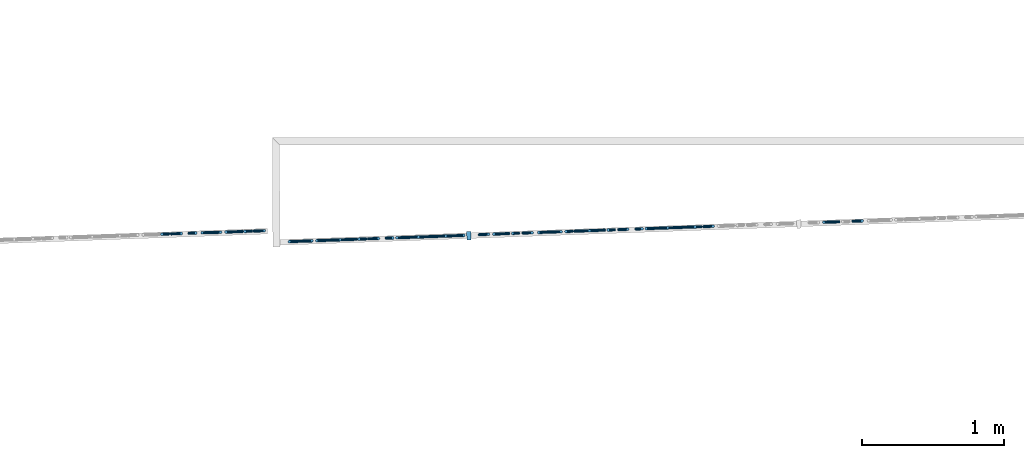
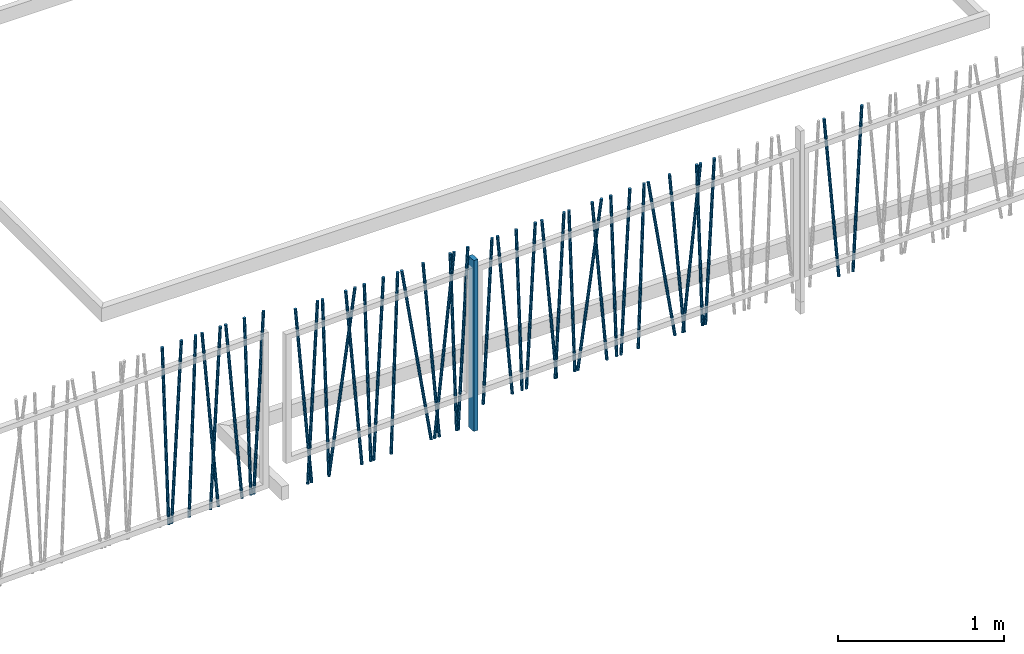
# One storey, part 11 of 171: 41 columns.
"""IFC2X3 building model written with IfcOpenShell, lengths in millimetres."""

from ifc_helpers import new_model, entity, si_unit, converted_unit, derived_unit, money_unit, direction, frame, origin_with_axes, origin_2d_with_axis, place, context, subcontext, project, spatial, rectangle, circle, extrude, clip, halfspace, material, type_object, element, save


model = new_model("IFC2X3")

# Units and contexts
model_context = context("Model", 3, precision=0.01, world=origin_with_axes(), true_north=direction((0.0, 1.0)))
body_context = subcontext(model_context, "Body", "Model", "MODEL_VIEW")
ifc_project = project(units=[si_unit("LENGTHUNIT", "METRE", prefix="MILLI"), si_unit("AREAUNIT", "SQUARE_METRE"), si_unit("VOLUMEUNIT", "CUBIC_METRE"), converted_unit("PLANEANGLEUNIT", "DEGREE", entity("IfcPlaneAngleMeasure", 0.0174532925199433), si_unit("PLANEANGLEUNIT", "RADIAN"), dimensions=[0, 0, 0, 0, 0, 0, 0]), money_unit("USD"), converted_unit("TIMEUNIT", "Year", entity("IfcTimeMeasure", 31557600.0), si_unit("TIMEUNIT", "SECOND"), dimensions=[0, 0, 1, 0, 0, 0, 0]), si_unit("MASSUNIT", "GRAM", prefix="KILO"), si_unit("THERMODYNAMICTEMPERATUREUNIT", "DEGREE_CELSIUS"), si_unit("LUMINOUSINTENSITYUNIT", "LUMEN"), si_unit("ENERGYUNIT", "JOULE", prefix="MEGA"), derived_unit("THERMALCONDUCTANCEUNIT", [(si_unit("POWERUNIT", "WATT"), 1), (si_unit("LENGTHUNIT", "METRE"), -1), (si_unit("THERMODYNAMICTEMPERATUREUNIT", "KELVIN"), -1)]), derived_unit("SPECIFICHEATCAPACITYUNIT", [(si_unit("ENERGYUNIT", "JOULE"), 1), (si_unit("MASSUNIT", "GRAM", prefix="KILO"), -1), (si_unit("THERMODYNAMICTEMPERATUREUNIT", "KELVIN"), -1)]), derived_unit("MASSDENSITYUNIT", [(si_unit("MASSUNIT", "GRAM", prefix="KILO"), 1), (si_unit("VOLUMEUNIT", "CUBIC_METRE"), -1)])], contexts=[model_context])

# Site, building, storey
site_placement = place(None, origin_with_axes())
site = spatial("IfcSite", under=ifc_project, at=site_placement, Name="Site", CompositionType="ELEMENT")
building_placement = place(site_placement, origin_with_axes())
building = spatial("IfcBuilding", under=site, at=building_placement, Name="Bâtiment", CompositionType="ELEMENT")
storey_placement = place(building_placement, frame((0.0, 0.0, 3000.0), z_axis=(0.0, 0.0, 1.0), x_axis=(1.0, 0.0, 0.0)))
storey = spatial("IfcBuildingStorey", under=building, at=storey_placement, Name="rdc", CompositionType="ELEMENT", Elevation=3000.0)

# Columns
ifc_material = material(Name="Empty Fill 2959611567")
column_type_1 = type_object("IfcColumnType", Name="Empty Fill 2959611567 D20", PredefinedType="NOTDEFINED")
column_1_placement = place(storey_placement, frame((2250794.029648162, -666940.8238283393, -1950.0), z_axis=(0.0, 0.0, 1.0), x_axis=(0.03567989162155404, -0.9993632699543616, 0.0)))
element("IfcColumn", 1, at=column_1_placement, inside=storey, type_object=column_type_1, material=ifc_material, Name="Pilier-019", context=body_context, shape_type="Clipping", body=[
    clip(clip(extrude(circle(Radius=10.0, at=origin_2d_with_axis()), frame((0.0, -0.05485622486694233, -1.046719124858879), z_axis=(0.0, -0.05233595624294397, -0.9986295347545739), x_axis=(-1.0, 0.0, 0.0)), (0.0, 0.0, -1.0), 1203.743126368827), halfspace(frame((0.0, 0.0, 0.0), z_axis=(0.0, 0.0, 1.0), x_axis=(0.0, -1.0, 0.0)), True)), halfspace(frame((0.0, 0.0, 1200.0), z_axis=(0.0, 0.0, -1.0), x_axis=(0.0, 1.0, 0.0)), True)),
])
column_2_placement = place(storey_placement, frame((2245995.297487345, -667029.642795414, -2071.2112281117), z_axis=(0.0, 0.0, 1.0), x_axis=(0.03567989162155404, -0.9993632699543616, 0.0)))
element("IfcColumn", 2, at=column_2_placement, inside=storey, type_object=column_type_1, material=ifc_material, Name="Pilier-019", context=body_context, shape_type="Clipping", body=[
    clip(clip(extrude(circle(Radius=10.0, at=origin_2d_with_axis()), frame((0.0, -0.05485622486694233, -1.046719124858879), z_axis=(0.0, -0.05233595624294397, -0.9986295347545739), x_axis=(-1.0, 0.0, 0.0)), (0.0, 0.0, -1.0), 1325.120698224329), halfspace(frame((0.0, 0.0, 0.0), z_axis=(0.0, 0.0, 1.0), x_axis=(0.0, -1.0, 0.0)), True)), halfspace(frame((0.0, 0.0, 1321.2112281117), z_axis=(0.0, 0.0, -1.0), x_axis=(0.0, 1.0, 0.0)), True)),
])
column_3_placement = place(storey_placement, frame((2245974.602719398, -667030.3816529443, -2071.2112281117), z_axis=(0.0, 0.0, 1.0), x_axis=(-0.03567989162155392, 0.9993632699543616, 0.0)))
element("IfcColumn", 3, at=column_3_placement, inside=storey, type_object=column_type_1, material=ifc_material, Name="Pilier-019", context=body_context, shape_type="Clipping", body=[
    clip(clip(extrude(circle(Radius=10.0, at=origin_2d_with_axis()), frame((0.0, -0.02437434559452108, -0.6979899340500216), z_axis=(0.0, 0.03489949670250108, 0.9993908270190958), x_axis=(1.0, 0.0, 0.0)), (0.0, 0.0, 1.0), 1323.413395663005), halfspace(frame((0.0, 0.0, 0.0), z_axis=(0.0, 0.0, 1.0), x_axis=(0.0, -1.0, 0.0)), True)), halfspace(frame((0.0, 0.0, 1321.2112281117), z_axis=(0.0, 0.0, -1.0), x_axis=(0.0, 1.0, 0.0)), True)),
])
column_4_placement = place(storey_placement, frame((2246119.670835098, -667025.2023404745, -2071.2112281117), z_axis=(0.0, 0.0, 1.0), x_axis=(0.03567989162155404, -0.9993632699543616, 0.0)))
element("IfcColumn", 4, at=column_4_placement, inside=storey, type_object=column_type_1, material=ifc_material, Name="Pilier-019", context=body_context, shape_type="Clipping", body=[
    clip(clip(extrude(circle(Radius=10.0, at=origin_2d_with_axis()), frame((0.0, -0.02437434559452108, -0.6979899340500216), z_axis=(0.0, -0.03489949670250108, -0.9993908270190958), x_axis=(-1.0, 0.0, 0.0)), (0.0, 0.0, -1.0), 1323.413395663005), halfspace(frame((0.0, 0.0, 0.0), z_axis=(0.0, 0.0, 1.0), x_axis=(0.0, -1.0, 0.0)), True)), halfspace(frame((0.0, 0.0, 1321.2112281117), z_axis=(0.0, 0.0, -1.0), x_axis=(0.0, 1.0, 0.0)), True)),
])
column_5_placement = place(storey_placement, frame((2250693.336302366, -666944.4188450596, -1950.0), z_axis=(0.0, 0.0, 1.0), x_axis=(-0.03567989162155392, 0.9993632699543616, 0.0)))
element("IfcColumn", 5, at=column_5_placement, inside=storey, type_object=column_type_1, material=ifc_material, Name="Pilier-019", context=body_context, shape_type="Clipping", body=[
    clip(clip(extrude(circle(Radius=10.0, at=origin_2d_with_axis()), frame((0.0, -0.152502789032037, -1.743114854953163), z_axis=(0.0, 0.08715574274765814, 0.9961946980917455), x_axis=(1.0, 0.0, 0.0)), (0.0, 0.0, 1.0), 1208.083351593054), halfspace(frame((0.0, 0.0, 0.0), z_axis=(0.0, 0.0, 1.0), x_axis=(0.0, -1.0, 0.0)), True)), halfspace(frame((0.0, 0.0, 1200.0), z_axis=(0.0, 0.0, -1.0), x_axis=(0.0, 1.0, 0.0)), True)),
])
column_6_placement = place(storey_placement, frame((2247507.402789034, -667060.1041606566, -2071.2112281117), z_axis=(0.0, 0.0, 1.0), x_axis=(0.03567989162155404, -0.9993632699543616, 0.0)))
element("IfcColumn", 6, at=column_6_placement, inside=storey, type_object=column_type_1, material=ifc_material, Name="Pilier-019", context=body_context, shape_type="Clipping", body=[
    clip(clip(extrude(circle(Radius=10.0, at=origin_2d_with_axis()), frame((0.0, -0.02437434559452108, -0.6979899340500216), z_axis=(0.0, -0.03489949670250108, -0.9993908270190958), x_axis=(-1.0, 0.0, 0.0)), (0.0, 0.0, -1.0), 1323.413395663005), halfspace(frame((0.0, 0.0, 0.0), z_axis=(0.0, 0.0, 1.0), x_axis=(0.0, -1.0, 0.0)), True)), halfspace(frame((0.0, 0.0, 1321.2112281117), z_axis=(0.0, 0.0, -1.0), x_axis=(0.0, 1.0, 0.0)), True)),
])
column_7_placement = place(storey_placement, frame((2247362.334673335, -667065.2834731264, -2071.2112281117), z_axis=(0.0, 0.0, 1.0), x_axis=(-0.03567989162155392, 0.9993632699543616, 0.0)))
element("IfcColumn", 7, at=column_7_placement, inside=storey, type_object=column_type_1, material=ifc_material, Name="Pilier-019", context=body_context, shape_type="Clipping", body=[
    clip(clip(extrude(circle(Radius=10.0, at=origin_2d_with_axis()), frame((0.0, -0.02437434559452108, -0.6979899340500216), z_axis=(0.0, 0.03489949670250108, 0.9993908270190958), x_axis=(1.0, 0.0, 0.0)), (0.0, 0.0, 1.0), 1323.413395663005), halfspace(frame((0.0, 0.0, 0.0), z_axis=(0.0, 0.0, 1.0), x_axis=(0.0, -1.0, 0.0)), True)), halfspace(frame((0.0, 0.0, 1321.2112281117), z_axis=(0.0, 0.0, -1.0), x_axis=(0.0, 1.0, 0.0)), True)),
])
column_8_placement = place(storey_placement, frame((2247383.029441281, -667064.5446155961, -2071.2112281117), z_axis=(0.0, 0.0, 1.0), x_axis=(0.03567989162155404, -0.9993632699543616, 0.0)))
element("IfcColumn", 8, at=column_8_placement, inside=storey, type_object=column_type_1, material=ifc_material, Name="Pilier-019", context=body_context, shape_type="Clipping", body=[
    clip(clip(extrude(circle(Radius=10.0, at=origin_2d_with_axis()), frame((0.0, -0.05485622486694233, -1.046719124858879), z_axis=(0.0, -0.05233595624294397, -0.9986295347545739), x_axis=(-1.0, 0.0, 0.0)), (0.0, 0.0, -1.0), 1325.120698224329), halfspace(frame((0.0, 0.0, 0.0), z_axis=(0.0, 0.0, 1.0), x_axis=(0.0, -1.0, 0.0)), True)), halfspace(frame((0.0, 0.0, 1321.2112281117), z_axis=(0.0, 0.0, -1.0), x_axis=(0.0, 1.0, 0.0)), True)),
])
column_9_placement = place(storey_placement, frame((2247064.785123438, -667075.906772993, -2071.2112281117), z_axis=(0.0, 0.0, 1.0), x_axis=(-0.03567989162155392, 0.9993632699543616, 0.0)))
element("IfcColumn", 9, at=column_9_placement, inside=storey, type_object=column_type_1, material=ifc_material, Name="Pilier-019", context=body_context, shape_type="Clipping", body=[
    clip(clip(extrude(circle(Radius=10.0, at=origin_2d_with_axis()), frame((0.0, -0.02437434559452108, -0.6979899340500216), z_axis=(0.0, 0.03489949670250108, 0.9993908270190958), x_axis=(1.0, 0.0, 0.0)), (0.0, 0.0, 1.0), 1323.413395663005), halfspace(frame((0.0, 0.0, 0.0), z_axis=(0.0, 0.0, 1.0), x_axis=(0.0, -1.0, 0.0)), True)), halfspace(frame((0.0, 0.0, 1321.2112281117), z_axis=(0.0, 0.0, -1.0), x_axis=(0.0, 1.0, 0.0)), True)),
])
column_10_placement = place(storey_placement, frame((2247849.608866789, -667047.8865055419, -2071.2112281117), z_axis=(0.0, 0.0, 1.0), x_axis=(-0.03567989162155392, 0.9993632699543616, 0.0)))
element("IfcColumn", 10, at=column_10_placement, inside=storey, type_object=column_type_1, material=ifc_material, Name="Pilier-019", context=body_context, shape_type="Clipping", body=[
    clip(clip(extrude(circle(Radius=10.0, at=origin_2d_with_axis()), frame((0.0, -0.152502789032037, -1.743114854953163), z_axis=(0.0, 0.08715574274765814, 0.9961946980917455), x_axis=(1.0, 0.0, 0.0)), (0.0, 0.0, 1.0), 1329.75758690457), halfspace(frame((0.0, 0.0, 0.0), z_axis=(0.0, 0.0, 1.0), x_axis=(0.0, -1.0, 0.0)), True)), halfspace(frame((0.0, 0.0, 1321.2112281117), z_axis=(0.0, 0.0, -1.0), x_axis=(0.0, 1.0, 0.0)), True)),
])
column_11_placement = place(storey_placement, frame((2247791.990437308, -667049.9436346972, -2071.2112281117), z_axis=(0.0, 0.0, 1.0), x_axis=(-0.03567989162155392, 0.9993632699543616, 0.0)))
element("IfcColumn", 11, at=column_11_placement, inside=storey, type_object=column_type_1, material=ifc_material, Name="Pilier-019", context=body_context, shape_type="Clipping", body=[
    clip(clip(extrude(circle(Radius=10.0, at=origin_2d_with_axis()), frame((0.0, -0.4955357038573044, -3.128689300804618), z_axis=(0.0, 0.1564344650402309, 0.9876883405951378), x_axis=(1.0, 0.0, 0.0)), (0.0, 0.0, 1.0), 1344.015669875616), halfspace(frame((0.0, 0.0, 0.0), z_axis=(0.0, 0.0, 1.0), x_axis=(0.0, -1.0, 0.0)), True)), halfspace(frame((0.0, 0.0, 1321.2112281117), z_axis=(0.0, 0.0, -1.0), x_axis=(0.0, 1.0, 0.0)), True)),
])
column_12_placement = place(storey_placement, frame((2246579.014159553, -667009.9082883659, -2071.2112281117), z_axis=(0.0, 0.0, 1.0), x_axis=(0.03567989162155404, -0.9993632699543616, 0.0)))
element("IfcColumn", 12, at=column_12_placement, inside=storey, type_object=column_type_1, material=ifc_material, Name="Pilier-019", context=body_context, shape_type="Clipping", body=[
    clip(clip(extrude(circle(Radius=10.0, at=origin_2d_with_axis()), frame((0.0, -0.05485622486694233, -1.046719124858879), z_axis=(0.0, -0.05233595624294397, -0.9986295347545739), x_axis=(-1.0, 0.0, 0.0)), (0.0, 0.0, -1.0), 1325.120698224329), halfspace(frame((0.0, 0.0, 0.0), z_axis=(0.0, 0.0, 1.0), x_axis=(0.0, -1.0, 0.0)), True)), halfspace(frame((0.0, 0.0, 1321.2112281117), z_axis=(0.0, 0.0, -1.0), x_axis=(0.0, 1.0, 0.0)), True)),
])
column_13_placement = place(storey_placement, frame((2247973.071350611, -667043.4785708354, -2071.2112281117), z_axis=(0.0, 0.0, 1.0), x_axis=(-0.03567989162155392, 0.9993632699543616, 0.0)))
element("IfcColumn", 13, at=column_13_placement, inside=storey, type_object=column_type_1, material=ifc_material, Name="Pilier-019", context=body_context, shape_type="Clipping", body=[
    clip(clip(extrude(circle(Radius=10.0, at=origin_2d_with_axis()), frame((0.0, -0.02437434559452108, -0.6979899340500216), z_axis=(0.0, 0.03489949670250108, 0.9993908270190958), x_axis=(1.0, 0.0, 0.0)), (0.0, 0.0, 1.0), 1323.413395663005), halfspace(frame((0.0, 0.0, 0.0), z_axis=(0.0, 0.0, 1.0), x_axis=(0.0, -1.0, 0.0)), True)), halfspace(frame((0.0, 0.0, 1321.2112281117), z_axis=(0.0, 0.0, -1.0), x_axis=(0.0, 1.0, 0.0)), True)),
])
for number, where, z_axis, x_axis, name in (
    (14, (2246941.322639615, -667080.3147076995, -2071.2112281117), (0.0, 0.0, 1.0), (-0.03567989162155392, 0.9993632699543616, 0.0), "Pilier-019"),
    (15, (2246326.968070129, -667017.8012851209, -2071.2112281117), (0.0, 0.0, 1.0), (-0.03567989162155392, 0.9993632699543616, 0.0), "Pilier-019"),
):
    element("IfcColumn", number, at=place(storey_placement, frame(where, z_axis=z_axis, x_axis=x_axis)), inside=storey, type_object=column_type_1, material=ifc_material, Name=name, context=body_context, shape_type="Clipping", body=[
        clip(clip(extrude(circle(Radius=10.0, at=origin_2d_with_axis()), frame((0.0, -0.152502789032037, -1.743114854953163), z_axis=(0.0, 0.08715574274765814, 0.9961946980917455), x_axis=(1.0, 0.0, 0.0)), (0.0, 0.0, 1.0), 1329.75758690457), halfspace(frame((0.0, 0.0, 0.0), z_axis=(0.0, 0.0, 1.0), x_axis=(0.0, -1.0, 0.0)), True)), halfspace(frame((0.0, 0.0, 1321.2112281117), z_axis=(0.0, 0.0, -1.0), x_axis=(0.0, 1.0, 0.0)), True)),
    ])
column_14_placement = place(storey_placement, frame((2246914.478082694, -667081.2731288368, -2071.2112281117), z_axis=(0.0, 0.0, 1.0), x_axis=(0.03567989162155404, -0.9993632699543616, 0.0)))
element("IfcColumn", 16, at=column_14_placement, inside=storey, type_object=column_type_1, material=ifc_material, Name="Pilier-019", context=body_context, shape_type="Clipping", body=[
    clip(clip(extrude(circle(Radius=10.0, at=origin_2d_with_axis()), frame((0.0, -0.05485622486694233, -1.046719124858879), z_axis=(0.0, -0.05233595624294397, -0.9986295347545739), x_axis=(-1.0, 0.0, 0.0)), (0.0, 0.0, -1.0), 1325.120698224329), halfspace(frame((0.0, 0.0, 0.0), z_axis=(0.0, 0.0, 1.0), x_axis=(0.0, -1.0, 0.0)), True)), halfspace(frame((0.0, 0.0, 1321.2112281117), z_axis=(0.0, 0.0, -1.0), x_axis=(0.0, 1.0, 0.0)), True)),
])
column_15_placement = place(storey_placement, frame((2248471.041727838, -667023.7605939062, -1950.0), z_axis=(0.0, 0.0, 1.0), x_axis=(0.03567989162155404, -0.9993632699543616, 0.0)))
element("IfcColumn", 17, at=column_15_placement, inside=storey, type_object=column_type_1, material=ifc_material, Name="Pilier-019", context=body_context, shape_type="Clipping", body=[
    clip(clip(extrude(circle(Radius=10.0, at=origin_2d_with_axis()), frame((0.0, -0.05485622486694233, -1.046719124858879), z_axis=(0.0, -0.05233595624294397, -0.9986295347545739), x_axis=(-1.0, 0.0, 0.0)), (0.0, 0.0, -1.0), 1203.743126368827), halfspace(frame((0.0, 0.0, 0.0), z_axis=(0.0, 0.0, 1.0), x_axis=(0.0, -1.0, 0.0)), True)), halfspace(frame((0.0, 0.0, 1200.0), z_axis=(0.0, 0.0, -1.0), x_axis=(0.0, 1.0, 0.0)), True)),
])
column_16_placement = place(storey_placement, frame((2248685.395700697, -667016.1075944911, -1950.0), z_axis=(0.0, 0.0, 1.0), x_axis=(-0.03567989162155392, 0.9993632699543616, 0.0)))
element("IfcColumn", 18, at=column_16_placement, inside=storey, type_object=column_type_1, material=ifc_material, Name="Pilier-019", context=body_context, shape_type="Clipping", body=[
    clip(clip(extrude(circle(Radius=10.0, at=origin_2d_with_axis()), frame((0.0, -0.152502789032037, -1.743114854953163), z_axis=(0.0, 0.08715574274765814, 0.9961946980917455), x_axis=(1.0, 0.0, 0.0)), (0.0, 0.0, 1.0), 1208.083351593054), halfspace(frame((0.0, 0.0, 0.0), z_axis=(0.0, 0.0, 1.0), x_axis=(0.0, -1.0, 0.0)), True)), halfspace(frame((0.0, 0.0, 1200.0), z_axis=(0.0, 0.0, -1.0), x_axis=(0.0, 1.0, 0.0)), True)),
])
column_17_placement = place(storey_placement, frame((2248439.768499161, -667024.8771302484, -1950.0), z_axis=(0.0, 0.0, 1.0), x_axis=(-0.03567989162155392, 0.9993632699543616, 0.0)))
element("IfcColumn", 19, at=column_17_placement, inside=storey, type_object=column_type_1, material=ifc_material, Name="Pilier-019", context=body_context, shape_type="Clipping", body=[
    clip(clip(extrude(circle(Radius=10.0, at=origin_2d_with_axis()), frame((0.0, -0.02437434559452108, -0.6979899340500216), z_axis=(0.0, 0.03489949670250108, 0.9993908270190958), x_axis=(1.0, 0.0, 0.0)), (0.0, 0.0, 1.0), 1202.128283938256), halfspace(frame((0.0, 0.0, 0.0), z_axis=(0.0, 0.0, 1.0), x_axis=(0.0, -1.0, 0.0)), True)), halfspace(frame((0.0, 0.0, 1200.0), z_axis=(0.0, 0.0, -1.0), x_axis=(0.0, 1.0, 0.0)), True)),
])
column_18_placement = place(storey_placement, frame((2249593.681927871, -666983.6793923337, -1950.0), z_axis=(0.0, 0.0, 1.0), x_axis=(-0.03567989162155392, 0.9993632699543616, 0.0)))
element("IfcColumn", 20, at=column_18_placement, inside=storey, type_object=column_type_1, material=ifc_material, Name="Pilier-019", context=body_context, shape_type="Clipping", body=[
    clip(clip(extrude(circle(Radius=10.0, at=origin_2d_with_axis()), frame((0.0, -0.152502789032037, -1.743114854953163), z_axis=(0.0, 0.08715574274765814, 0.9961946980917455), x_axis=(1.0, 0.0, 0.0)), (0.0, 0.0, 1.0), 1208.083351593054), halfspace(frame((0.0, 0.0, 0.0), z_axis=(0.0, 0.0, 1.0), x_axis=(0.0, -1.0, 0.0)), True)), halfspace(frame((0.0, 0.0, 1200.0), z_axis=(0.0, 0.0, -1.0), x_axis=(0.0, 1.0, 0.0)), True)),
])
column_19_placement = place(storey_placement, frame((2249144.04872496, -666999.7324777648, -1950.0), z_axis=(0.0, 0.0, 1.0), x_axis=(0.03567989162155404, -0.9993632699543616, 0.0)))
element("IfcColumn", 21, at=column_19_placement, inside=storey, type_object=column_type_1, material=ifc_material, Name="Pilier-019", context=body_context, shape_type="Clipping", body=[
    clip(clip(extrude(circle(Radius=10.0, at=origin_2d_with_axis()), frame((0.0, -0.05485622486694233, -1.046719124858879), z_axis=(0.0, -0.05233595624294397, -0.9986295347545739), x_axis=(-1.0, 0.0, 0.0)), (0.0, 0.0, -1.0), 1203.743126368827), halfspace(frame((0.0, 0.0, 0.0), z_axis=(0.0, 0.0, 1.0), x_axis=(0.0, -1.0, 0.0)), True)), halfspace(frame((0.0, 0.0, 1200.0), z_axis=(0.0, 0.0, -1.0), x_axis=(0.0, 1.0, 0.0)), True)),
])
column_20_placement = place(storey_placement, frame((2249112.775496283, -667000.8490141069, -1950.0), z_axis=(0.0, 0.0, 1.0), x_axis=(-0.03567989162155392, 0.9993632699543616, 0.0)))
element("IfcColumn", 22, at=column_20_placement, inside=storey, type_object=column_type_1, material=ifc_material, Name="Pilier-019", context=body_context, shape_type="Clipping", body=[
    clip(clip(extrude(circle(Radius=10.0, at=origin_2d_with_axis()), frame((0.0, -0.02437434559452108, -0.6979899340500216), z_axis=(0.0, 0.03489949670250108, 0.9993908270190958), x_axis=(1.0, 0.0, 0.0)), (0.0, 0.0, 1.0), 1202.128283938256), halfspace(frame((0.0, 0.0, 0.0), z_axis=(0.0, 0.0, 1.0), x_axis=(0.0, -1.0, 0.0)), True)), halfspace(frame((0.0, 0.0, 1200.0), z_axis=(0.0, 0.0, -1.0), x_axis=(0.0, 1.0, 0.0)), True)),
])
column_21_placement = place(storey_placement, frame((2249527.475605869, -666986.0431317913, -1950.0), z_axis=(0.0, 0.0, 1.0), x_axis=(-0.03567989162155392, 0.9993632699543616, 0.0)))
element("IfcColumn", 23, at=column_21_placement, inside=storey, type_object=column_type_1, material=ifc_material, Name="Pilier-019", context=body_context, shape_type="Clipping", body=[
    clip(clip(extrude(circle(Radius=10.0, at=origin_2d_with_axis()), frame((0.0, -0.4955357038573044, -3.128689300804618), z_axis=(0.0, 0.1564344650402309, 0.9876883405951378), x_axis=(1.0, 0.0, 0.0)), (0.0, 0.0, 1.0), 1221.293528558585), halfspace(frame((0.0, 0.0, 0.0), z_axis=(0.0, 0.0, 1.0), x_axis=(0.0, -1.0, 0.0)), True)), halfspace(frame((0.0, 0.0, 1200.0), z_axis=(0.0, 0.0, -1.0), x_axis=(0.0, 1.0, 0.0)), True)),
])
column_22_placement = place(storey_placement, frame((2249266.303800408, -666995.3676507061, -1950.0), z_axis=(0.0, 0.0, 1.0), x_axis=(0.03567989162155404, -0.9993632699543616, 0.0)))
element("IfcColumn", 24, at=column_22_placement, inside=storey, type_object=column_type_1, material=ifc_material, Name="Pilier-019", context=body_context, shape_type="Clipping", body=[
    clip(clip(extrude(circle(Radius=10.0, at=origin_2d_with_axis()), frame((0.0, -0.02437434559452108, -0.6979899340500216), z_axis=(0.0, -0.03489949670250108, -0.9993908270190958), x_axis=(-1.0, 0.0, 0.0)), (0.0, 0.0, -1.0), 1202.128283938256), halfspace(frame((0.0, 0.0, 0.0), z_axis=(0.0, 0.0, 1.0), x_axis=(0.0, -1.0, 0.0)), True)), halfspace(frame((0.0, 0.0, 1200.0), z_axis=(0.0, 0.0, -1.0), x_axis=(0.0, 1.0, 0.0)), True)),
])
column_23_placement = place(storey_placement, frame((2248815.225946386, -667011.4723139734, -1950.0), z_axis=(0.0, 0.0, 1.0), x_axis=(-0.03567989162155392, 0.9993632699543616, 0.0)))
element("IfcColumn", 25, at=column_23_placement, inside=storey, type_object=column_type_1, material=ifc_material, Name="Pilier-019", context=body_context, shape_type="Clipping", body=[
    clip(clip(extrude(circle(Radius=10.0, at=origin_2d_with_axis()), frame((0.0, -0.02437434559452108, -0.6979899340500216), z_axis=(0.0, 0.03489949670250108, 0.9993908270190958), x_axis=(1.0, 0.0, 0.0)), (0.0, 0.0, 1.0), 1202.128283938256), halfspace(frame((0.0, 0.0, 0.0), z_axis=(0.0, 0.0, 1.0), x_axis=(0.0, -1.0, 0.0)), True)), halfspace(frame((0.0, 0.0, 1200.0), z_axis=(0.0, 0.0, -1.0), x_axis=(0.0, 1.0, 0.0)), True)),
])
for number, where, z_axis, x_axis, name in (
    (26, (2248675.497366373, -667016.4609910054, -1950.0), (0.0, 0.0, 1.0), (0.03567989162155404, -0.9993632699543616, 0.0), "Pilier-019"),
    (27, (2248163.339869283, -667034.7463578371, -1950.0), (0.0, 0.0, 1.0), (0.03567989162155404, -0.9993632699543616, 0.0), "Pilier-019"),
):
    element("IfcColumn", number, at=place(storey_placement, frame(where, z_axis=z_axis, x_axis=x_axis)), inside=storey, type_object=column_type_1, material=ifc_material, Name=name, context=body_context, shape_type="Clipping", body=[
        clip(clip(extrude(circle(Radius=10.0, at=origin_2d_with_axis()), frame((0.0, -0.05485622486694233, -1.046719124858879), z_axis=(0.0, -0.05233595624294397, -0.9986295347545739), x_axis=(-1.0, 0.0, 0.0)), (0.0, 0.0, -1.0), 1203.743126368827), halfspace(frame((0.0, 0.0, 0.0), z_axis=(0.0, 0.0, 1.0), x_axis=(0.0, -1.0, 0.0)), True)), halfspace(frame((0.0, 0.0, 1200.0), z_axis=(0.0, 0.0, -1.0), x_axis=(0.0, 1.0, 0.0)), True)),
    ])
column_24_placement = place(storey_placement, frame((2249723.51217356, -666979.044111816, -1950.0), z_axis=(0.0, 0.0, 1.0), x_axis=(-0.03567989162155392, 0.9993632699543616, 0.0)))
element("IfcColumn", 28, at=column_24_placement, inside=storey, type_object=column_type_1, material=ifc_material, Name="Pilier-019", context=body_context, shape_type="Clipping", body=[
    clip(clip(extrude(circle(Radius=10.0, at=origin_2d_with_axis()), frame((0.0, -0.02437434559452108, -0.6979899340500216), z_axis=(0.0, 0.03489949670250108, 0.9993908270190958), x_axis=(1.0, 0.0, 0.0)), (0.0, 0.0, 1.0), 1202.128283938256), halfspace(frame((0.0, 0.0, 0.0), z_axis=(0.0, 0.0, 1.0), x_axis=(0.0, -1.0, 0.0)), True)), halfspace(frame((0.0, 0.0, 1200.0), z_axis=(0.0, 0.0, -1.0), x_axis=(0.0, 1.0, 0.0)), True)),
])
column_25_placement = place(storey_placement, frame((2249744.633093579, -666978.2900395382, -1950.0), z_axis=(0.0, 0.0, 1.0), x_axis=(0.03567989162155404, -0.9993632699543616, 0.0)))
element("IfcColumn", 29, at=column_25_placement, inside=storey, type_object=column_type_1, material=ifc_material, Name="Pilier-019", context=body_context, shape_type="Clipping", body=[
    clip(clip(extrude(circle(Radius=10.0, at=origin_2d_with_axis()), frame((0.0, -0.05485622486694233, -1.046719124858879), z_axis=(0.0, -0.05233595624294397, -0.9986295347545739), x_axis=(-1.0, 0.0, 0.0)), (0.0, 0.0, -1.0), 1203.743126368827), halfspace(frame((0.0, 0.0, 0.0), z_axis=(0.0, 0.0, 1.0), x_axis=(0.0, -1.0, 0.0)), True)), halfspace(frame((0.0, 0.0, 1200.0), z_axis=(0.0, 0.0, -1.0), x_axis=(0.0, 1.0, 0.0)), True)),
])
column_26_placement = place(storey_placement, frame((2248370.348382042, -667027.3556106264, -1950.0), z_axis=(0.0, 0.0, 1.0), x_axis=(-0.03567989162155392, 0.9993632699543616, 0.0)))
element("IfcColumn", 30, at=column_26_placement, inside=storey, type_object=column_type_1, material=ifc_material, Name="Pilier-019", context=body_context, shape_type="Clipping", body=[
    clip(clip(extrude(circle(Radius=10.0, at=origin_2d_with_axis()), frame((0.0, -0.152502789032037, -1.743114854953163), z_axis=(0.0, 0.08715574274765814, 0.9961946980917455), x_axis=(1.0, 0.0, 0.0)), (0.0, 0.0, 1.0), 1208.083351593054), halfspace(frame((0.0, 0.0, 0.0), z_axis=(0.0, 0.0, 1.0), x_axis=(0.0, -1.0, 0.0)), True)), halfspace(frame((0.0, 0.0, 1200.0), z_axis=(0.0, 0.0, -1.0), x_axis=(0.0, 1.0, 0.0)), True)),
])
column_27_placement = place(storey_placement, frame((2248836.346866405, -667010.7182416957, -1950.0), z_axis=(0.0, 0.0, 1.0), x_axis=(0.03567989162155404, -0.9993632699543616, 0.0)))
element("IfcColumn", 31, at=column_27_placement, inside=storey, type_object=column_type_1, material=ifc_material, Name="Pilier-019", context=body_context, shape_type="Clipping", body=[
    clip(clip(extrude(circle(Radius=10.0, at=origin_2d_with_axis()), frame((0.0, -0.3911900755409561, -2.78346201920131), z_axis=(0.0, -0.1391731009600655, -0.9902680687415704), x_axis=(-1.0, 0.0, 0.0)), (0.0, 0.0, -1.0), 1217.414720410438), halfspace(frame((0.0, 0.0, 0.0), z_axis=(0.0, 0.0, 1.0), x_axis=(0.0, -1.0, 0.0)), True)), halfspace(frame((0.0, 0.0, 1200.0), z_axis=(0.0, 0.0, -1.0), x_axis=(0.0, 1.0, 0.0)), True)),
])
column_28_placement = place(storey_placement, frame((2249043.355379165, -667003.3274944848, -1950.0), z_axis=(0.0, 0.0, 1.0), x_axis=(-0.03567989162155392, 0.9993632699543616, 0.0)))
element("IfcColumn", 32, at=column_28_placement, inside=storey, type_object=column_type_1, material=ifc_material, Name="Pilier-019", context=body_context, shape_type="Clipping", body=[
    clip(clip(extrude(circle(Radius=10.0, at=origin_2d_with_axis()), frame((0.0, -0.152502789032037, -1.743114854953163), z_axis=(0.0, 0.08715574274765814, 0.9961946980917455), x_axis=(1.0, 0.0, 0.0)), (0.0, 0.0, 1.0), 1208.083351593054), halfspace(frame((0.0, 0.0, 0.0), z_axis=(0.0, 0.0, 1.0), x_axis=(0.0, -1.0, 0.0)), True)), halfspace(frame((0.0, 0.0, 1200.0), z_axis=(0.0, 0.0, -1.0), x_axis=(0.0, 1.0, 0.0)), True)),
])
column_29_placement = place(storey_placement, frame((2249583.783593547, -666984.0327888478, -1950.0), z_axis=(0.0, 0.0, 1.0), x_axis=(0.03567989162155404, -0.9993632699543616, 0.0)))
element("IfcColumn", 33, at=column_29_placement, inside=storey, type_object=column_type_1, material=ifc_material, Name="Pilier-019", context=body_context, shape_type="Clipping", body=[
    clip(clip(extrude(circle(Radius=10.0, at=origin_2d_with_axis()), frame((0.0, -0.2197276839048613, -2.090569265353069), z_axis=(0.0, -0.1045284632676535, -0.9945218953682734), x_axis=(-1.0, 0.0, 0.0)), (0.0, 0.0, -1.0), 1210.814104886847), halfspace(frame((0.0, 0.0, 0.0), z_axis=(0.0, 0.0, 1.0), x_axis=(0.0, -1.0, 0.0)), True)), halfspace(frame((0.0, 0.0, 1200.0), z_axis=(0.0, 0.0, -1.0), x_axis=(0.0, 1.0, 0.0)), True)),
])
column_30_placement = place(storey_placement, frame((2247983.6138099, -667043.1021773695, -2071.2112281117), z_axis=(0.0, 0.0, 1.0), x_axis=(0.03567989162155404, -0.9993632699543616, 0.0)))
element("IfcColumn", 34, at=column_30_placement, inside=storey, type_object=column_type_1, material=ifc_material, Name="Pilier-019", context=body_context, shape_type="Clipping", body=[
    clip(clip(extrude(circle(Radius=10.0, at=origin_2d_with_axis()), frame((0.0, -0.05485622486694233, -1.046719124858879), z_axis=(0.0, -0.05233595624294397, -0.9986295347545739), x_axis=(-1.0, 0.0, 0.0)), (0.0, 0.0, -1.0), 1325.120698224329), halfspace(frame((0.0, 0.0, 0.0), z_axis=(0.0, 0.0, 1.0), x_axis=(0.0, -1.0, 0.0)), True)), halfspace(frame((0.0, 0.0, 1321.2112281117), z_axis=(0.0, 0.0, -1.0), x_axis=(0.0, 1.0, 0.0)), True)),
])
column_31_placement = place(storey_placement, frame((2246495.267036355, -667012.8982804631, -2071.2112281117), z_axis=(0.0, 0.0, 1.0), x_axis=(-0.03567989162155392, 0.9993632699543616, 0.0)))
element("IfcColumn", 35, at=column_31_placement, inside=storey, type_object=column_type_1, material=ifc_material, Name="Pilier-019", context=body_context, shape_type="Clipping", body=[
    clip(clip(extrude(circle(Radius=10.0, at=origin_2d_with_axis()), frame((0.0, -0.152502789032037, -1.743114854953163), z_axis=(0.0, 0.08715574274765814, 0.9961946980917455), x_axis=(1.0, 0.0, 0.0)), (0.0, 0.0, 1.0), 1329.75758690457), halfspace(frame((0.0, 0.0, 0.0), z_axis=(0.0, 0.0, 1.0), x_axis=(0.0, -1.0, 0.0)), True)), halfspace(frame((0.0, 0.0, 1321.2112281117), z_axis=(0.0, 0.0, -1.0), x_axis=(0.0, 1.0, 0.0)), True)),
])
column_32_placement = place(storey_placement, frame((2247816.380974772, -667049.0728284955, -2071.2112281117), z_axis=(0.0, 0.0, 1.0), x_axis=(0.03567989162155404, -0.9993632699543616, 0.0)))
element("IfcColumn", 36, at=column_32_placement, inside=storey, type_object=column_type_1, material=ifc_material, Name="Pilier-019", context=body_context, shape_type="Clipping", body=[
    clip(clip(extrude(circle(Radius=10.0, at=origin_2d_with_axis()), frame((0.0, -0.2197276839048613, -2.090569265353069), z_axis=(0.0, -0.1045284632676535, -0.9945218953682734), x_axis=(-1.0, 0.0, 0.0)), (0.0, 0.0, -1.0), 1332.692998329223), halfspace(frame((0.0, 0.0, 0.0), z_axis=(0.0, 0.0, 1.0), x_axis=(0.0, -1.0, 0.0)), True)), halfspace(frame((0.0, 0.0, 1321.2112281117), z_axis=(0.0, 0.0, -1.0), x_axis=(0.0, 1.0, 0.0)), True)),
])
column_33_placement = place(storey_placement, frame((2246271.312300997, -667020.8940522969, -2071.2112281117), z_axis=(0.0, 0.0, 1.0), x_axis=(0.03567989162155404, -0.9993632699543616, 0.0)))
element("IfcColumn", 37, at=column_33_placement, inside=storey, type_object=column_type_1, material=ifc_material, Name="Pilier-019", context=body_context, shape_type="Clipping", body=[
    clip(clip(extrude(circle(Radius=10.0, at=origin_2d_with_axis()), frame((0.0, -0.05485622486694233, -1.046719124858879), z_axis=(0.0, -0.05233595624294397, -0.9986295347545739), x_axis=(-1.0, 0.0, 0.0)), (0.0, 0.0, -1.0), 1325.120698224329), halfspace(frame((0.0, 0.0, 0.0), z_axis=(0.0, 0.0, 1.0), x_axis=(0.0, -1.0, 0.0)), True)), halfspace(frame((0.0, 0.0, 1321.2112281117), z_axis=(0.0, 0.0, -1.0), x_axis=(0.0, 1.0, 0.0)), True)),
])
column_34_placement = place(storey_placement, frame((2247064.651668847, -667075.9115376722, -2071.2112281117), z_axis=(0.0, 0.0, 1.0), x_axis=(0.03567989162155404, -0.9993632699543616, 0.0)))
element("IfcColumn", 38, at=column_34_placement, inside=storey, type_object=column_type_1, material=ifc_material, Name="Pilier-019", context=body_context, shape_type="Clipping", body=[
    clip(clip(extrude(circle(Radius=10.0, at=origin_2d_with_axis()), frame((0.0, -0.3911900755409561, -2.78346201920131), z_axis=(0.0, -0.1391731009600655, -0.9902680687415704), x_axis=(-1.0, 0.0, 0.0)), (0.0, 0.0, -1.0), 1339.817160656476), halfspace(frame((0.0, 0.0, 0.0), z_axis=(0.0, 0.0, 1.0), x_axis=(0.0, -1.0, 0.0)), True)), halfspace(frame((0.0, 0.0, 1321.2112281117), z_axis=(0.0, 0.0, -1.0), x_axis=(0.0, 1.0, 0.0)), True)),
])
column_35_placement = place(storey_placement, frame((2247299.282318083, -667067.5346076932, -2071.2112281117), z_axis=(0.0, 0.0, 1.0), x_axis=(-0.03567989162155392, 0.9993632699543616, 0.0)))
element("IfcColumn", 39, at=column_35_placement, inside=storey, type_object=column_type_1, material=ifc_material, Name="Pilier-019", context=body_context, shape_type="Clipping", body=[
    clip(clip(extrude(circle(Radius=10.0, at=origin_2d_with_axis()), frame((0.0, -0.152502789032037, -1.743114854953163), z_axis=(0.0, 0.08715574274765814, 0.9961946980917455), x_axis=(1.0, 0.0, 0.0)), (0.0, 0.0, 1.0), 1329.75758690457), halfspace(frame((0.0, 0.0, 0.0), z_axis=(0.0, 0.0, 1.0), x_axis=(0.0, -1.0, 0.0)), True)), halfspace(frame((0.0, 0.0, 1321.2112281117), z_axis=(0.0, 0.0, -1.0), x_axis=(0.0, 1.0, 0.0)), True)),
])
column_36_placement = place(storey_placement, frame((2246558.319391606, -667010.6471458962, -2071.2112281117), z_axis=(0.0, 0.0, 1.0), x_axis=(-0.03567989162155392, 0.9993632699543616, 0.0)))
element("IfcColumn", 40, at=column_36_placement, inside=storey, type_object=column_type_1, material=ifc_material, Name="Pilier-019", context=body_context, shape_type="Clipping", body=[
    clip(clip(extrude(circle(Radius=10.0, at=origin_2d_with_axis()), frame((0.0, -0.02437434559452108, -0.6979899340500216), z_axis=(0.0, 0.03489949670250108, 0.9993908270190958), x_axis=(1.0, 0.0, 0.0)), (0.0, 0.0, 1.0), 1323.413395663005), halfspace(frame((0.0, 0.0, 0.0), z_axis=(0.0, 0.0, 1.0), x_axis=(0.0, -1.0, 0.0)), True)), halfspace(frame((0.0, 0.0, 1321.2112281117), z_axis=(0.0, 0.0, -1.0), x_axis=(0.0, 1.0, 0.0)), True)),
])
column_type_2 = type_object("IfcColumnType", Name="Empty Fill 2959611567 30 x 60", PredefinedType="NOTDEFINED")
column_37_placement = place(storey_placement, frame((2248089.11070453, -667043.4265365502, -2100.0), z_axis=(0.0, 0.0, 1.0), x_axis=(0.9993632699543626, 0.03567989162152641, 0.0)))
element("IfcColumn", 41, at=column_37_placement, inside=storey, type_object=column_type_2, material=ifc_material, Name="Pilier-019", context=body_context, shape_type="SweptSolid", body=[
    extrude(rectangle(XDim=30.0, YDim=60.0, at=origin_2d_with_axis()), origin_with_axes(), (0.0, 0.0, 1.0), 1260.0),
])

save(model, "model.ifc")
